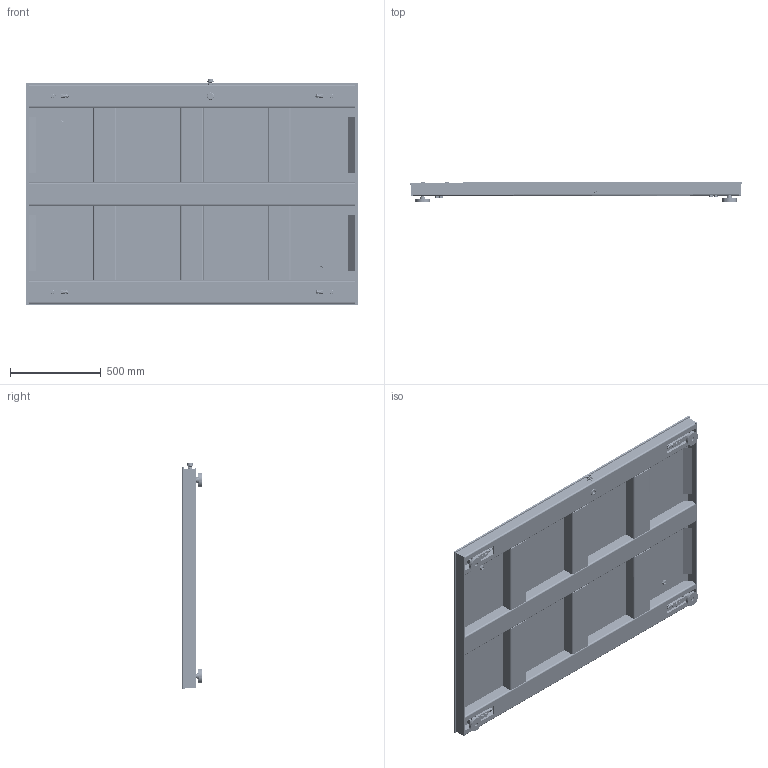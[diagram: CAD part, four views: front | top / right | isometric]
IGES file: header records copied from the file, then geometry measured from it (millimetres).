
Start section: SolidWorks IGES file using analytic representation for surfaces
Global section: file name: C:\0_Work\SolidWorks\~0_B-TEK Floor Scale\FS Series Floor Scales\HIFS-4872 Series.IGS; native system: SolidWorks 2017; preprocessor: SolidWorks 2017; author: vach01; date: 191017.082501; units: inch
Bounding box: 1828.81 x 108.4 x 1241.45 mm (x, y, z)
Surface area: 9561519.2 mm2 (no closed solid volume)
Topology: 0 solids, 0 shells, 20104 faces, 180709 edges, 180661 vertices
Faces by surface type: bspline 15540, revolution 4564
